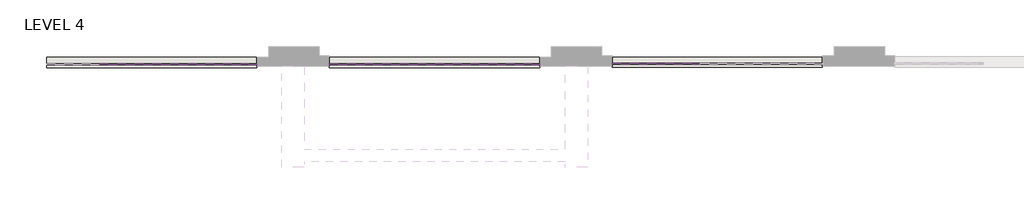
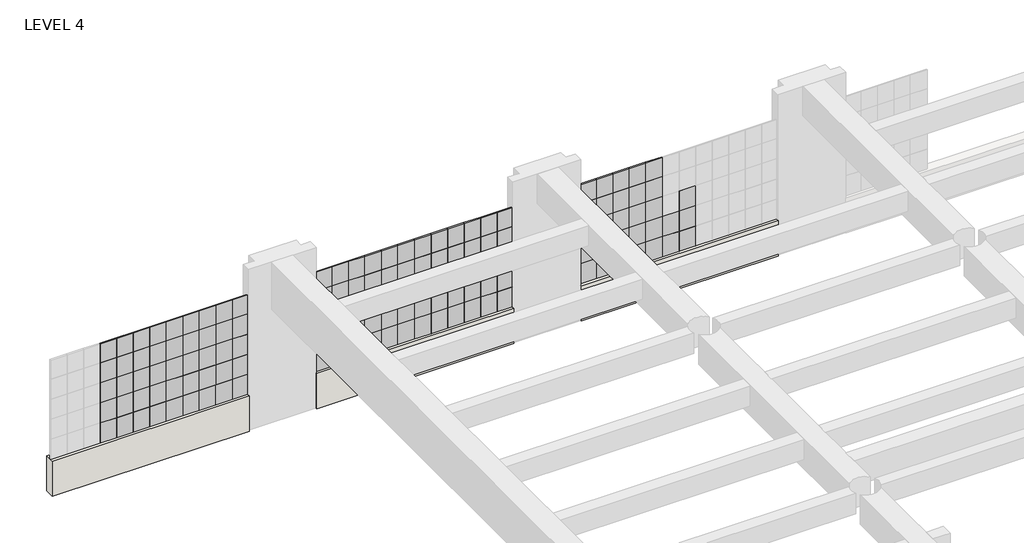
# One storey, part 10 of 26: 135 plates, 3 walls.
"""IFC4 building model written with IfcOpenShell, lengths in millimetres."""

from ifc_helpers import new_model, si_unit, origin, origin_with_axes, place, context, project, spatial, polyline, outline, extrude, transform, mapped, element, save
from components import system_panel_glazed_ab35d819, system_panel_glazed_418eb6cd, system_panel_glazed_c366ada3, system_panel_glazed_5fbbf350

model = new_model("IFC4")

# Units and contexts
model_context = context("Model", 3, world=origin())
ifc_project = project(units=[si_unit("LENGTHUNIT", "METRE", prefix="MILLI")], contexts=[model_context])

# Site, building, storey
site = spatial("IfcSite", under=ifc_project)
building = spatial("IfcBuilding", under=site)
storey = spatial("IfcBuildingStorey", under=building, Name="LEVEL 4", Elevation=0.0)

# Plates
placement = place(None, origin())
system_panel_glazed_shape = system_panel_glazed_ab35d819(model_context)
element("IfcPlate", 1, ObjectType="System Panel : Glazed", at=placement, inside=storey, context=model_context, shape_type="MappedRepresentation", body=[
    mapped(system_panel_glazed_shape, transform((-36423.5794116, 117218.5604847, 800.1), x_axis=(1.0, 0.0, 0.0), y_axis=(0.0, 1.0, 0.0), z_axis=(0.0, 0.0, 1.0))),
])
element("IfcPlate", 2, ObjectType="System Panel : Glazed", at=placement, inside=storey, context=model_context, shape_type="MappedRepresentation", body=[
    mapped(system_panel_glazed_shape, transform((-34289.9794115, 117218.5604847, 800.1), x_axis=(1.0, 0.0, 0.0), y_axis=(0.0, 1.0, 0.0), z_axis=(0.0, 0.0, 1.0))),
])
element("IfcPlate", 3, ObjectType="System Panel : Glazed", at=placement, inside=storey, context=model_context, shape_type="MappedRepresentation", body=[
    mapped(system_panel_glazed_shape, transform((-34645.5794115, 117218.5604847, 800.1), x_axis=(1.0, 0.0, 0.0), y_axis=(0.0, 1.0, 0.0), z_axis=(0.0, 0.0, 1.0))),
])
element("IfcPlate", 4, ObjectType="System Panel : Glazed", at=placement, inside=storey, context=model_context, shape_type="MappedRepresentation", body=[
    mapped(system_panel_glazed_shape, transform((-35001.1794115, 117218.5604847, 800.1), x_axis=(1.0, 0.0, 0.0), y_axis=(0.0, 1.0, 0.0), z_axis=(0.0, 0.0, 1.0))),
])
element("IfcPlate", 5, ObjectType="System Panel : Glazed", at=placement, inside=storey, context=model_context, shape_type="MappedRepresentation", body=[
    mapped(system_panel_glazed_shape, transform((-35356.7794115, 117218.5604847, 800.1), x_axis=(1.0, 0.0, 0.0), y_axis=(0.0, 1.0, 0.0), z_axis=(0.0, 0.0, 1.0))),
])
element("IfcPlate", 6, ObjectType="System Panel : Glazed", at=placement, inside=storey, context=model_context, shape_type="MappedRepresentation", body=[
    mapped(system_panel_glazed_shape, transform((-36423.5794116, 117218.5604847, 1257.3), x_axis=(1.0, 0.0, 0.0), y_axis=(0.0, 1.0, 0.0), z_axis=(0.0, 0.0, 1.0))),
])
element("IfcPlate", 7, ObjectType="System Panel : Glazed", at=placement, inside=storey, context=model_context, shape_type="MappedRepresentation", body=[
    mapped(system_panel_glazed_shape, transform((-34289.9794115, 117218.5604847, 1257.3), x_axis=(1.0, 0.0, 0.0), y_axis=(0.0, 1.0, 0.0), z_axis=(0.0, 0.0, 1.0))),
])
element("IfcPlate", 8, ObjectType="System Panel : Glazed", at=placement, inside=storey, context=model_context, shape_type="MappedRepresentation", body=[
    mapped(system_panel_glazed_shape, transform((-34645.5794115, 117218.5604847, 1257.3), x_axis=(1.0, 0.0, 0.0), y_axis=(0.0, 1.0, 0.0), z_axis=(0.0, 0.0, 1.0))),
])
element("IfcPlate", 9, ObjectType="System Panel : Glazed", at=placement, inside=storey, context=model_context, shape_type="MappedRepresentation", body=[
    mapped(system_panel_glazed_shape, transform((-35001.1794115, 117218.5604847, 1257.3), x_axis=(1.0, 0.0, 0.0), y_axis=(0.0, 1.0, 0.0), z_axis=(0.0, 0.0, 1.0))),
])
element("IfcPlate", 10, ObjectType="System Panel : Glazed", at=placement, inside=storey, context=model_context, shape_type="MappedRepresentation", body=[
    mapped(system_panel_glazed_shape, transform((-35356.7794115, 117218.5604847, 1257.3), x_axis=(1.0, 0.0, 0.0), y_axis=(0.0, 1.0, 0.0), z_axis=(0.0, 0.0, 1.0))),
])
element("IfcPlate", 11, ObjectType="System Panel : Glazed", at=placement, inside=storey, context=model_context, shape_type="MappedRepresentation", body=[
    mapped(system_panel_glazed_shape, transform((-36423.5794116, 117218.5604847, 1714.5), x_axis=(1.0, 0.0, 0.0), y_axis=(0.0, 1.0, 0.0), z_axis=(0.0, 0.0, 1.0))),
])
element("IfcPlate", 12, ObjectType="System Panel : Glazed", at=placement, inside=storey, context=model_context, shape_type="MappedRepresentation", body=[
    mapped(system_panel_glazed_shape, transform((-34289.9794115, 117218.5604847, 1714.5), x_axis=(1.0, 0.0, 0.0), y_axis=(0.0, 1.0, 0.0), z_axis=(0.0, 0.0, 1.0))),
])
element("IfcPlate", 13, ObjectType="System Panel : Glazed", at=placement, inside=storey, context=model_context, shape_type="MappedRepresentation", body=[
    mapped(system_panel_glazed_shape, transform((-35001.1794115, 117218.5604847, 1714.5), x_axis=(1.0, 0.0, 0.0), y_axis=(0.0, 1.0, 0.0), z_axis=(0.0, 0.0, 1.0))),
])
element("IfcPlate", 14, ObjectType="System Panel : Glazed", at=placement, inside=storey, context=model_context, shape_type="MappedRepresentation", body=[
    mapped(system_panel_glazed_shape, transform((-35356.7794115, 117218.5604847, 1714.5), x_axis=(1.0, 0.0, 0.0), y_axis=(0.0, 1.0, 0.0), z_axis=(0.0, 0.0, 1.0))),
])
element("IfcPlate", 15, ObjectType="System Panel : Glazed", at=placement, inside=storey, context=model_context, shape_type="MappedRepresentation", body=[
    mapped(system_panel_glazed_shape, transform((-36423.5794116, 117218.5604847, 2171.7), x_axis=(1.0, 0.0, 0.0), y_axis=(0.0, 1.0, 0.0), z_axis=(0.0, 0.0, 1.0))),
])
element("IfcPlate", 16, ObjectType="System Panel : Glazed", at=placement, inside=storey, context=model_context, shape_type="MappedRepresentation", body=[
    mapped(system_panel_glazed_shape, transform((-35001.1794115, 117218.5604847, 2171.7), x_axis=(1.0, 0.0, 0.0), y_axis=(0.0, 1.0, 0.0), z_axis=(0.0, 0.0, 1.0))),
])
element("IfcPlate", 17, ObjectType="System Panel : Glazed", at=placement, inside=storey, context=model_context, shape_type="MappedRepresentation", body=[
    mapped(system_panel_glazed_shape, transform((-35356.7794115, 117218.5604847, 2171.7), x_axis=(1.0, 0.0, 0.0), y_axis=(0.0, 1.0, 0.0), z_axis=(0.0, 0.0, 1.0))),
])
element("IfcPlate", 18, ObjectType="System Panel : Glazed", at=placement, inside=storey, context=model_context, shape_type="MappedRepresentation", body=[
    mapped(system_panel_glazed_shape, transform((-36067.9794115, 117218.5604847, 800.1), x_axis=(1.0, 0.0, 0.0), y_axis=(0.0, 1.0, 0.0), z_axis=(0.0, 0.0, 1.0))),
])
element("IfcPlate", 19, ObjectType="System Panel : Glazed", at=placement, inside=storey, context=model_context, shape_type="MappedRepresentation", body=[
    mapped(system_panel_glazed_shape, transform((-36067.9794115, 117218.5604847, 1257.3), x_axis=(1.0, 0.0, 0.0), y_axis=(0.0, 1.0, 0.0), z_axis=(0.0, 0.0, 1.0))),
])
element("IfcPlate", 20, ObjectType="System Panel : Glazed", at=placement, inside=storey, context=model_context, shape_type="MappedRepresentation", body=[
    mapped(system_panel_glazed_shape, transform((-36067.9794115, 117218.5604847, 1714.5), x_axis=(1.0, 0.0, 0.0), y_axis=(0.0, 1.0, 0.0), z_axis=(0.0, 0.0, 1.0))),
])
element("IfcPlate", 21, ObjectType="System Panel : Glazed", at=placement, inside=storey, context=model_context, shape_type="MappedRepresentation", body=[
    mapped(system_panel_glazed_shape, transform((-36067.9794115, 117218.5604847, 2171.7), x_axis=(1.0, 0.0, 0.0), y_axis=(0.0, 1.0, 0.0), z_axis=(0.0, 0.0, 1.0))),
])
element("IfcPlate", 22, ObjectType="System Panel : Glazed", at=placement, inside=storey, context=model_context, shape_type="MappedRepresentation", body=[
    mapped(system_panel_glazed_shape, transform((-35712.3794115, 117218.5604847, 800.1), x_axis=(1.0, 0.0, 0.0), y_axis=(0.0, 1.0, 0.0), z_axis=(0.0, 0.0, 1.0))),
])
element("IfcPlate", 23, ObjectType="System Panel : Glazed", at=placement, inside=storey, context=model_context, shape_type="MappedRepresentation", body=[
    mapped(system_panel_glazed_shape, transform((-35712.3794115, 117218.5604847, 1257.3), x_axis=(1.0, 0.0, 0.0), y_axis=(0.0, 1.0, 0.0), z_axis=(0.0, 0.0, 1.0))),
])
element("IfcPlate", 24, ObjectType="System Panel : Glazed", at=placement, inside=storey, context=model_context, shape_type="MappedRepresentation", body=[
    mapped(system_panel_glazed_shape, transform((-35712.3794115, 117218.5604847, 1714.5), x_axis=(1.0, 0.0, 0.0), y_axis=(0.0, 1.0, 0.0), z_axis=(0.0, 0.0, 1.0))),
])
element("IfcPlate", 25, ObjectType="System Panel : Glazed", at=placement, inside=storey, context=model_context, shape_type="MappedRepresentation", body=[
    mapped(system_panel_glazed_shape, transform((-35712.3794115, 117218.5604847, 2171.7), x_axis=(1.0, 0.0, 0.0), y_axis=(0.0, 1.0, 0.0), z_axis=(0.0, 0.0, 1.0))),
])
element("IfcPlate", 26, ObjectType="System Panel : Glazed", at=placement, inside=storey, context=model_context, shape_type="MappedRepresentation", body=[
    mapped(system_panel_glazed_shape, transform((-42118.7148439, 117210.7486604, 800.1), x_axis=(1.0, 0.0, 0.0), y_axis=(0.0, 1.0, 0.0), z_axis=(0.0, 0.0, 1.0))),
])
element("IfcPlate", 27, ObjectType="System Panel : Glazed", at=placement, inside=storey, context=model_context, shape_type="MappedRepresentation", body=[
    mapped(system_panel_glazed_shape, transform((-38562.7148438, 117210.7486604, 800.1), x_axis=(1.0, 0.0, 0.0), y_axis=(0.0, 1.0, 0.0), z_axis=(0.0, 0.0, 1.0))),
])
element("IfcPlate", 28, ObjectType="System Panel : Glazed", at=placement, inside=storey, context=model_context, shape_type="MappedRepresentation", body=[
    mapped(system_panel_glazed_shape, transform((-38918.3148438, 117210.7486604, 800.1), x_axis=(1.0, 0.0, 0.0), y_axis=(0.0, 1.0, 0.0), z_axis=(0.0, 0.0, 1.0))),
])
element("IfcPlate", 29, ObjectType="System Panel : Glazed", at=placement, inside=storey, context=model_context, shape_type="MappedRepresentation", body=[
    mapped(system_panel_glazed_shape, transform((-39273.9148438, 117210.7486604, 800.1), x_axis=(1.0, 0.0, 0.0), y_axis=(0.0, 1.0, 0.0), z_axis=(0.0, 0.0, 1.0))),
])
element("IfcPlate", 30, ObjectType="System Panel : Glazed", at=placement, inside=storey, context=model_context, shape_type="MappedRepresentation", body=[
    mapped(system_panel_glazed_shape, transform((-39629.5148438, 117210.7486604, 800.1), x_axis=(1.0, 0.0, 0.0), y_axis=(0.0, 1.0, 0.0), z_axis=(0.0, 0.0, 1.0))),
])
element("IfcPlate", 31, ObjectType="System Panel : Glazed", at=placement, inside=storey, context=model_context, shape_type="MappedRepresentation", body=[
    mapped(system_panel_glazed_shape, transform((-39985.1148438, 117210.7486604, 800.1), x_axis=(1.0, 0.0, 0.0), y_axis=(0.0, 1.0, 0.0), z_axis=(0.0, 0.0, 1.0))),
])
element("IfcPlate", 32, ObjectType="System Panel : Glazed", at=placement, inside=storey, context=model_context, shape_type="MappedRepresentation", body=[
    mapped(system_panel_glazed_shape, transform((-40340.7148438, 117210.7486604, 800.1), x_axis=(1.0, 0.0, 0.0), y_axis=(0.0, 1.0, 0.0), z_axis=(0.0, 0.0, 1.0))),
])
element("IfcPlate", 33, ObjectType="System Panel : Glazed", at=placement, inside=storey, context=model_context, shape_type="MappedRepresentation", body=[
    mapped(system_panel_glazed_shape, transform((-40696.3148438, 117210.7486604, 800.1), x_axis=(1.0, 0.0, 0.0), y_axis=(0.0, 1.0, 0.0), z_axis=(0.0, 0.0, 1.0))),
])
element("IfcPlate", 34, ObjectType="System Panel : Glazed", at=placement, inside=storey, context=model_context, shape_type="MappedRepresentation", body=[
    mapped(system_panel_glazed_shape, transform((-41051.9148438, 117210.7486604, 800.1), x_axis=(1.0, 0.0, 0.0), y_axis=(0.0, 1.0, 0.0), z_axis=(0.0, 0.0, 1.0))),
])
element("IfcPlate", 35, ObjectType="System Panel : Glazed", at=placement, inside=storey, context=model_context, shape_type="MappedRepresentation", body=[
    mapped(system_panel_glazed_shape, transform((-42118.7148439, 117210.7486604, 1257.3), x_axis=(1.0, 0.0, 0.0), y_axis=(0.0, 1.0, 0.0), z_axis=(0.0, 0.0, 1.0))),
])
element("IfcPlate", 36, ObjectType="System Panel : Glazed", at=placement, inside=storey, context=model_context, shape_type="MappedRepresentation", body=[
    mapped(system_panel_glazed_shape, transform((-38918.3148438, 117210.7486604, 1257.3), x_axis=(1.0, 0.0, 0.0), y_axis=(0.0, 1.0, 0.0), z_axis=(0.0, 0.0, 1.0))),
])
element("IfcPlate", 37, ObjectType="System Panel : Glazed", at=placement, inside=storey, context=model_context, shape_type="MappedRepresentation", body=[
    mapped(system_panel_glazed_shape, transform((-39273.9148438, 117210.7486604, 1257.3), x_axis=(1.0, 0.0, 0.0), y_axis=(0.0, 1.0, 0.0), z_axis=(0.0, 0.0, 1.0))),
])
element("IfcPlate", 38, ObjectType="System Panel : Glazed", at=placement, inside=storey, context=model_context, shape_type="MappedRepresentation", body=[
    mapped(system_panel_glazed_shape, transform((-39629.5148438, 117210.7486604, 1257.3), x_axis=(1.0, 0.0, 0.0), y_axis=(0.0, 1.0, 0.0), z_axis=(0.0, 0.0, 1.0))),
])
element("IfcPlate", 39, ObjectType="System Panel : Glazed", at=placement, inside=storey, context=model_context, shape_type="MappedRepresentation", body=[
    mapped(system_panel_glazed_shape, transform((-39985.1148438, 117210.7486604, 1257.3), x_axis=(1.0, 0.0, 0.0), y_axis=(0.0, 1.0, 0.0), z_axis=(0.0, 0.0, 1.0))),
])
element("IfcPlate", 40, ObjectType="System Panel : Glazed", at=placement, inside=storey, context=model_context, shape_type="MappedRepresentation", body=[
    mapped(system_panel_glazed_shape, transform((-40340.7148438, 117210.7486604, 1257.3), x_axis=(1.0, 0.0, 0.0), y_axis=(0.0, 1.0, 0.0), z_axis=(0.0, 0.0, 1.0))),
])
element("IfcPlate", 41, ObjectType="System Panel : Glazed", at=placement, inside=storey, context=model_context, shape_type="MappedRepresentation", body=[
    mapped(system_panel_glazed_shape, transform((-40696.3148438, 117210.7486604, 1257.3), x_axis=(1.0, 0.0, 0.0), y_axis=(0.0, 1.0, 0.0), z_axis=(0.0, 0.0, 1.0))),
])
element("IfcPlate", 42, ObjectType="System Panel : Glazed", at=placement, inside=storey, context=model_context, shape_type="MappedRepresentation", body=[
    mapped(system_panel_glazed_shape, transform((-41051.9148438, 117210.7486604, 1257.3), x_axis=(1.0, 0.0, 0.0), y_axis=(0.0, 1.0, 0.0), z_axis=(0.0, 0.0, 1.0))),
])
element("IfcPlate", 43, ObjectType="System Panel : Glazed", at=placement, inside=storey, context=model_context, shape_type="MappedRepresentation", body=[
    mapped(system_panel_glazed_shape, transform((-38562.7148438, 117210.7486604, 1257.3), x_axis=(1.0, 0.0, 0.0), y_axis=(0.0, 1.0, 0.0), z_axis=(0.0, 0.0, 1.0))),
])
element("IfcPlate", 44, ObjectType="System Panel : Glazed", at=placement, inside=storey, context=model_context, shape_type="MappedRepresentation", body=[
    mapped(system_panel_glazed_shape, transform((-42118.7148439, 117210.7486604, 1714.5), x_axis=(1.0, 0.0, 0.0), y_axis=(0.0, 1.0, 0.0), z_axis=(0.0, 0.0, 1.0))),
])
element("IfcPlate", 45, ObjectType="System Panel : Glazed", at=placement, inside=storey, context=model_context, shape_type="MappedRepresentation", body=[
    mapped(system_panel_glazed_shape, transform((-38918.3148438, 117210.7486604, 1714.5), x_axis=(1.0, 0.0, 0.0), y_axis=(0.0, 1.0, 0.0), z_axis=(0.0, 0.0, 1.0))),
])
element("IfcPlate", 46, ObjectType="System Panel : Glazed", at=placement, inside=storey, context=model_context, shape_type="MappedRepresentation", body=[
    mapped(system_panel_glazed_shape, transform((-39273.9148438, 117210.7486604, 1714.5), x_axis=(1.0, 0.0, 0.0), y_axis=(0.0, 1.0, 0.0), z_axis=(0.0, 0.0, 1.0))),
])
element("IfcPlate", 47, ObjectType="System Panel : Glazed", at=placement, inside=storey, context=model_context, shape_type="MappedRepresentation", body=[
    mapped(system_panel_glazed_shape, transform((-39629.5148438, 117210.7486604, 1714.5), x_axis=(1.0, 0.0, 0.0), y_axis=(0.0, 1.0, 0.0), z_axis=(0.0, 0.0, 1.0))),
])
element("IfcPlate", 48, ObjectType="System Panel : Glazed", at=placement, inside=storey, context=model_context, shape_type="MappedRepresentation", body=[
    mapped(system_panel_glazed_shape, transform((-39985.1148438, 117210.7486604, 1714.5), x_axis=(1.0, 0.0, 0.0), y_axis=(0.0, 1.0, 0.0), z_axis=(0.0, 0.0, 1.0))),
])
element("IfcPlate", 49, ObjectType="System Panel : Glazed", at=placement, inside=storey, context=model_context, shape_type="MappedRepresentation", body=[
    mapped(system_panel_glazed_shape, transform((-40340.7148438, 117210.7486604, 1714.5), x_axis=(1.0, 0.0, 0.0), y_axis=(0.0, 1.0, 0.0), z_axis=(0.0, 0.0, 1.0))),
])
element("IfcPlate", 50, ObjectType="System Panel : Glazed", at=placement, inside=storey, context=model_context, shape_type="MappedRepresentation", body=[
    mapped(system_panel_glazed_shape, transform((-40696.3148438, 117210.7486604, 1714.5), x_axis=(1.0, 0.0, 0.0), y_axis=(0.0, 1.0, 0.0), z_axis=(0.0, 0.0, 1.0))),
])
element("IfcPlate", 51, ObjectType="System Panel : Glazed", at=placement, inside=storey, context=model_context, shape_type="MappedRepresentation", body=[
    mapped(system_panel_glazed_shape, transform((-41051.9148438, 117210.7486604, 1714.5), x_axis=(1.0, 0.0, 0.0), y_axis=(0.0, 1.0, 0.0), z_axis=(0.0, 0.0, 1.0))),
])
element("IfcPlate", 52, ObjectType="System Panel : Glazed", at=placement, inside=storey, context=model_context, shape_type="MappedRepresentation", body=[
    mapped(system_panel_glazed_shape, transform((-38562.7148438, 117210.7486604, 1714.5), x_axis=(1.0, 0.0, 0.0), y_axis=(0.0, 1.0, 0.0), z_axis=(0.0, 0.0, 1.0))),
])
element("IfcPlate", 53, ObjectType="System Panel : Glazed", at=placement, inside=storey, context=model_context, shape_type="MappedRepresentation", body=[
    mapped(system_panel_glazed_shape, transform((-42118.7148439, 117210.7486604, 2171.7), x_axis=(1.0, 0.0, 0.0), y_axis=(0.0, 1.0, 0.0), z_axis=(0.0, 0.0, 1.0))),
])
element("IfcPlate", 54, ObjectType="System Panel : Glazed", at=placement, inside=storey, context=model_context, shape_type="MappedRepresentation", body=[
    mapped(system_panel_glazed_shape, transform((-38918.3148438, 117210.7486604, 2171.7), x_axis=(1.0, 0.0, 0.0), y_axis=(0.0, 1.0, 0.0), z_axis=(0.0, 0.0, 1.0))),
])
element("IfcPlate", 55, ObjectType="System Panel : Glazed", at=placement, inside=storey, context=model_context, shape_type="MappedRepresentation", body=[
    mapped(system_panel_glazed_shape, transform((-39273.9148438, 117210.7486604, 2171.7), x_axis=(1.0, 0.0, 0.0), y_axis=(0.0, 1.0, 0.0), z_axis=(0.0, 0.0, 1.0))),
])
element("IfcPlate", 56, ObjectType="System Panel : Glazed", at=placement, inside=storey, context=model_context, shape_type="MappedRepresentation", body=[
    mapped(system_panel_glazed_shape, transform((-39629.5148438, 117210.7486604, 2171.7), x_axis=(1.0, 0.0, 0.0), y_axis=(0.0, 1.0, 0.0), z_axis=(0.0, 0.0, 1.0))),
])
element("IfcPlate", 57, ObjectType="System Panel : Glazed", at=placement, inside=storey, context=model_context, shape_type="MappedRepresentation", body=[
    mapped(system_panel_glazed_shape, transform((-39985.1148438, 117210.7486604, 2171.7), x_axis=(1.0, 0.0, 0.0), y_axis=(0.0, 1.0, 0.0), z_axis=(0.0, 0.0, 1.0))),
])
element("IfcPlate", 58, ObjectType="System Panel : Glazed", at=placement, inside=storey, context=model_context, shape_type="MappedRepresentation", body=[
    mapped(system_panel_glazed_shape, transform((-40340.7148438, 117210.7486604, 2171.7), x_axis=(1.0, 0.0, 0.0), y_axis=(0.0, 1.0, 0.0), z_axis=(0.0, 0.0, 1.0))),
])
element("IfcPlate", 59, ObjectType="System Panel : Glazed", at=placement, inside=storey, context=model_context, shape_type="MappedRepresentation", body=[
    mapped(system_panel_glazed_shape, transform((-40696.3148438, 117210.7486604, 2171.7), x_axis=(1.0, 0.0, 0.0), y_axis=(0.0, 1.0, 0.0), z_axis=(0.0, 0.0, 1.0))),
])
element("IfcPlate", 60, ObjectType="System Panel : Glazed", at=placement, inside=storey, context=model_context, shape_type="MappedRepresentation", body=[
    mapped(system_panel_glazed_shape, transform((-41051.9148438, 117210.7486604, 2171.7), x_axis=(1.0, 0.0, 0.0), y_axis=(0.0, 1.0, 0.0), z_axis=(0.0, 0.0, 1.0))),
])
element("IfcPlate", 61, ObjectType="System Panel : Glazed", at=placement, inside=storey, context=model_context, shape_type="MappedRepresentation", body=[
    mapped(system_panel_glazed_shape, transform((-38562.7148438, 117210.7486604, 2171.7), x_axis=(1.0, 0.0, 0.0), y_axis=(0.0, 1.0, 0.0), z_axis=(0.0, 0.0, 1.0))),
])
element("IfcPlate", 62, ObjectType="System Panel : Glazed", at=placement, inside=storey, context=model_context, shape_type="MappedRepresentation", body=[
    mapped(system_panel_glazed_shape, transform((-41763.1148438, 117210.7486604, 800.1), x_axis=(1.0, 0.0, 0.0), y_axis=(0.0, 1.0, 0.0), z_axis=(0.0, 0.0, 1.0))),
])
element("IfcPlate", 63, ObjectType="System Panel : Glazed", at=placement, inside=storey, context=model_context, shape_type="MappedRepresentation", body=[
    mapped(system_panel_glazed_shape, transform((-41763.1148438, 117210.7486604, 1257.3), x_axis=(1.0, 0.0, 0.0), y_axis=(0.0, 1.0, 0.0), z_axis=(0.0, 0.0, 1.0))),
])
element("IfcPlate", 64, ObjectType="System Panel : Glazed", at=placement, inside=storey, context=model_context, shape_type="MappedRepresentation", body=[
    mapped(system_panel_glazed_shape, transform((-41763.1148438, 117210.7486604, 1714.5), x_axis=(1.0, 0.0, 0.0), y_axis=(0.0, 1.0, 0.0), z_axis=(0.0, 0.0, 1.0))),
])
element("IfcPlate", 65, ObjectType="System Panel : Glazed", at=placement, inside=storey, context=model_context, shape_type="MappedRepresentation", body=[
    mapped(system_panel_glazed_shape, transform((-41763.1148438, 117210.7486604, 2171.7), x_axis=(1.0, 0.0, 0.0), y_axis=(0.0, 1.0, 0.0), z_axis=(0.0, 0.0, 1.0))),
])
element("IfcPlate", 66, ObjectType="System Panel : Glazed", at=placement, inside=storey, context=model_context, shape_type="MappedRepresentation", body=[
    mapped(system_panel_glazed_shape, transform((-41407.5148438, 117210.7486604, 800.1), x_axis=(1.0, 0.0, 0.0), y_axis=(0.0, 1.0, 0.0), z_axis=(0.0, 0.0, 1.0))),
])
element("IfcPlate", 67, ObjectType="System Panel : Glazed", at=placement, inside=storey, context=model_context, shape_type="MappedRepresentation", body=[
    mapped(system_panel_glazed_shape, transform((-41407.5148438, 117210.7486604, 1257.3), x_axis=(1.0, 0.0, 0.0), y_axis=(0.0, 1.0, 0.0), z_axis=(0.0, 0.0, 1.0))),
])
element("IfcPlate", 68, ObjectType="System Panel : Glazed", at=placement, inside=storey, context=model_context, shape_type="MappedRepresentation", body=[
    mapped(system_panel_glazed_shape, transform((-41407.5148438, 117210.7486604, 1714.5), x_axis=(1.0, 0.0, 0.0), y_axis=(0.0, 1.0, 0.0), z_axis=(0.0, 0.0, 1.0))),
])
element("IfcPlate", 69, ObjectType="System Panel : Glazed", at=placement, inside=storey, context=model_context, shape_type="MappedRepresentation", body=[
    mapped(system_panel_glazed_shape, transform((-41407.5148438, 117210.7486604, 2171.7), x_axis=(1.0, 0.0, 0.0), y_axis=(0.0, 1.0, 0.0), z_axis=(0.0, 0.0, 1.0))),
])
element("IfcPlate", 70, ObjectType="System Panel : Glazed", at=placement, inside=storey, context=model_context, shape_type="MappedRepresentation", body=[
    mapped(system_panel_glazed_shape, transform((-44257.850276, 117210.7486604, 800.1), x_axis=(1.0, 0.0, 0.0), y_axis=(0.0, 1.0, 0.0), z_axis=(0.0, 0.0, 1.0))),
])
element("IfcPlate", 71, ObjectType="System Panel : Glazed", at=placement, inside=storey, context=model_context, shape_type="MappedRepresentation", body=[
    mapped(system_panel_glazed_shape, transform((-44613.450276, 117210.7486604, 800.1), x_axis=(1.0, 0.0, 0.0), y_axis=(0.0, 1.0, 0.0), z_axis=(0.0, 0.0, 1.0))),
])
element("IfcPlate", 72, ObjectType="System Panel : Glazed", at=placement, inside=storey, context=model_context, shape_type="MappedRepresentation", body=[
    mapped(system_panel_glazed_shape, transform((-44969.050276, 117210.7486604, 800.1), x_axis=(1.0, 0.0, 0.0), y_axis=(0.0, 1.0, 0.0), z_axis=(0.0, 0.0, 1.0))),
])
element("IfcPlate", 73, ObjectType="System Panel : Glazed", at=placement, inside=storey, context=model_context, shape_type="MappedRepresentation", body=[
    mapped(system_panel_glazed_shape, transform((-45324.650276, 117210.7486604, 800.1), x_axis=(1.0, 0.0, 0.0), y_axis=(0.0, 1.0, 0.0), z_axis=(0.0, 0.0, 1.0))),
])
element("IfcPlate", 74, ObjectType="System Panel : Glazed", at=placement, inside=storey, context=model_context, shape_type="MappedRepresentation", body=[
    mapped(system_panel_glazed_shape, transform((-45680.250276, 117210.7486604, 800.1), x_axis=(1.0, 0.0, 0.0), y_axis=(0.0, 1.0, 0.0), z_axis=(0.0, 0.0, 1.0))),
])
element("IfcPlate", 75, ObjectType="System Panel : Glazed", at=placement, inside=storey, context=model_context, shape_type="MappedRepresentation", body=[
    mapped(system_panel_glazed_shape, transform((-46035.850276, 117210.7486604, 800.1), x_axis=(1.0, 0.0, 0.0), y_axis=(0.0, 1.0, 0.0), z_axis=(0.0, 0.0, 1.0))),
])
element("IfcPlate", 76, ObjectType="System Panel : Glazed", at=placement, inside=storey, context=model_context, shape_type="MappedRepresentation", body=[
    mapped(system_panel_glazed_shape, transform((-46391.450276, 117210.7486604, 800.1), x_axis=(1.0, 0.0, 0.0), y_axis=(0.0, 1.0, 0.0), z_axis=(0.0, 0.0, 1.0))),
])
element("IfcPlate", 77, ObjectType="System Panel : Glazed", at=placement, inside=storey, context=model_context, shape_type="MappedRepresentation", body=[
    mapped(system_panel_glazed_shape, transform((-46747.050276, 117210.7486604, 800.1), x_axis=(1.0, 0.0, 0.0), y_axis=(0.0, 1.0, 0.0), z_axis=(0.0, 0.0, 1.0))),
])
element("IfcPlate", 78, ObjectType="System Panel : Glazed", at=placement, inside=storey, context=model_context, shape_type="MappedRepresentation", body=[
    mapped(system_panel_glazed_shape, transform((-44613.450276, 117210.7486604, 1257.3), x_axis=(1.0, 0.0, 0.0), y_axis=(0.0, 1.0, 0.0), z_axis=(0.0, 0.0, 1.0))),
])
element("IfcPlate", 79, ObjectType="System Panel : Glazed", at=placement, inside=storey, context=model_context, shape_type="MappedRepresentation", body=[
    mapped(system_panel_glazed_shape, transform((-44969.050276, 117210.7486604, 1257.3), x_axis=(1.0, 0.0, 0.0), y_axis=(0.0, 1.0, 0.0), z_axis=(0.0, 0.0, 1.0))),
])
element("IfcPlate", 80, ObjectType="System Panel : Glazed", at=placement, inside=storey, context=model_context, shape_type="MappedRepresentation", body=[
    mapped(system_panel_glazed_shape, transform((-45324.650276, 117210.7486604, 1257.3), x_axis=(1.0, 0.0, 0.0), y_axis=(0.0, 1.0, 0.0), z_axis=(0.0, 0.0, 1.0))),
])
element("IfcPlate", 81, ObjectType="System Panel : Glazed", at=placement, inside=storey, context=model_context, shape_type="MappedRepresentation", body=[
    mapped(system_panel_glazed_shape, transform((-45680.250276, 117210.7486604, 1257.3), x_axis=(1.0, 0.0, 0.0), y_axis=(0.0, 1.0, 0.0), z_axis=(0.0, 0.0, 1.0))),
])
element("IfcPlate", 82, ObjectType="System Panel : Glazed", at=placement, inside=storey, context=model_context, shape_type="MappedRepresentation", body=[
    mapped(system_panel_glazed_shape, transform((-46035.850276, 117210.7486604, 1257.3), x_axis=(1.0, 0.0, 0.0), y_axis=(0.0, 1.0, 0.0), z_axis=(0.0, 0.0, 1.0))),
])
element("IfcPlate", 83, ObjectType="System Panel : Glazed", at=placement, inside=storey, context=model_context, shape_type="MappedRepresentation", body=[
    mapped(system_panel_glazed_shape, transform((-46391.450276, 117210.7486604, 1257.3), x_axis=(1.0, 0.0, 0.0), y_axis=(0.0, 1.0, 0.0), z_axis=(0.0, 0.0, 1.0))),
])
element("IfcPlate", 84, ObjectType="System Panel : Glazed", at=placement, inside=storey, context=model_context, shape_type="MappedRepresentation", body=[
    mapped(system_panel_glazed_shape, transform((-46747.050276, 117210.7486604, 1257.3), x_axis=(1.0, 0.0, 0.0), y_axis=(0.0, 1.0, 0.0), z_axis=(0.0, 0.0, 1.0))),
])
element("IfcPlate", 85, ObjectType="System Panel : Glazed", at=placement, inside=storey, context=model_context, shape_type="MappedRepresentation", body=[
    mapped(system_panel_glazed_shape, transform((-44257.850276, 117210.7486604, 1257.3), x_axis=(1.0, 0.0, 0.0), y_axis=(0.0, 1.0, 0.0), z_axis=(0.0, 0.0, 1.0))),
])
element("IfcPlate", 86, ObjectType="System Panel : Glazed", at=placement, inside=storey, context=model_context, shape_type="MappedRepresentation", body=[
    mapped(system_panel_glazed_shape, transform((-44613.450276, 117210.7486604, 1714.5), x_axis=(1.0, 0.0, 0.0), y_axis=(0.0, 1.0, 0.0), z_axis=(0.0, 0.0, 1.0))),
])
element("IfcPlate", 87, ObjectType="System Panel : Glazed", at=placement, inside=storey, context=model_context, shape_type="MappedRepresentation", body=[
    mapped(system_panel_glazed_shape, transform((-44969.050276, 117210.7486604, 1714.5), x_axis=(1.0, 0.0, 0.0), y_axis=(0.0, 1.0, 0.0), z_axis=(0.0, 0.0, 1.0))),
])
element("IfcPlate", 88, ObjectType="System Panel : Glazed", at=placement, inside=storey, context=model_context, shape_type="MappedRepresentation", body=[
    mapped(system_panel_glazed_shape, transform((-45324.650276, 117210.7486604, 1714.5), x_axis=(1.0, 0.0, 0.0), y_axis=(0.0, 1.0, 0.0), z_axis=(0.0, 0.0, 1.0))),
])
element("IfcPlate", 89, ObjectType="System Panel : Glazed", at=placement, inside=storey, context=model_context, shape_type="MappedRepresentation", body=[
    mapped(system_panel_glazed_shape, transform((-45680.250276, 117210.7486604, 1714.5), x_axis=(1.0, 0.0, 0.0), y_axis=(0.0, 1.0, 0.0), z_axis=(0.0, 0.0, 1.0))),
])
element("IfcPlate", 90, ObjectType="System Panel : Glazed", at=placement, inside=storey, context=model_context, shape_type="MappedRepresentation", body=[
    mapped(system_panel_glazed_shape, transform((-46035.850276, 117210.7486604, 1714.5), x_axis=(1.0, 0.0, 0.0), y_axis=(0.0, 1.0, 0.0), z_axis=(0.0, 0.0, 1.0))),
])
element("IfcPlate", 91, ObjectType="System Panel : Glazed", at=placement, inside=storey, context=model_context, shape_type="MappedRepresentation", body=[
    mapped(system_panel_glazed_shape, transform((-46391.450276, 117210.7486604, 1714.5), x_axis=(1.0, 0.0, 0.0), y_axis=(0.0, 1.0, 0.0), z_axis=(0.0, 0.0, 1.0))),
])
element("IfcPlate", 92, ObjectType="System Panel : Glazed", at=placement, inside=storey, context=model_context, shape_type="MappedRepresentation", body=[
    mapped(system_panel_glazed_shape, transform((-46747.050276, 117210.7486604, 1714.5), x_axis=(1.0, 0.0, 0.0), y_axis=(0.0, 1.0, 0.0), z_axis=(0.0, 0.0, 1.0))),
])
element("IfcPlate", 93, ObjectType="System Panel : Glazed", at=placement, inside=storey, context=model_context, shape_type="MappedRepresentation", body=[
    mapped(system_panel_glazed_shape, transform((-44257.850276, 117210.7486604, 1714.5), x_axis=(1.0, 0.0, 0.0), y_axis=(0.0, 1.0, 0.0), z_axis=(0.0, 0.0, 1.0))),
])
element("IfcPlate", 94, ObjectType="System Panel : Glazed", at=placement, inside=storey, context=model_context, shape_type="MappedRepresentation", body=[
    mapped(system_panel_glazed_shape, transform((-44613.450276, 117210.7486604, 2171.7), x_axis=(1.0, 0.0, 0.0), y_axis=(0.0, 1.0, 0.0), z_axis=(0.0, 0.0, 1.0))),
])
element("IfcPlate", 95, ObjectType="System Panel : Glazed", at=placement, inside=storey, context=model_context, shape_type="MappedRepresentation", body=[
    mapped(system_panel_glazed_shape, transform((-44969.050276, 117210.7486604, 2171.7), x_axis=(1.0, 0.0, 0.0), y_axis=(0.0, 1.0, 0.0), z_axis=(0.0, 0.0, 1.0))),
])
element("IfcPlate", 96, ObjectType="System Panel : Glazed", at=placement, inside=storey, context=model_context, shape_type="MappedRepresentation", body=[
    mapped(system_panel_glazed_shape, transform((-45324.650276, 117210.7486604, 2171.7), x_axis=(1.0, 0.0, 0.0), y_axis=(0.0, 1.0, 0.0), z_axis=(0.0, 0.0, 1.0))),
])
element("IfcPlate", 97, ObjectType="System Panel : Glazed", at=placement, inside=storey, context=model_context, shape_type="MappedRepresentation", body=[
    mapped(system_panel_glazed_shape, transform((-45680.250276, 117210.7486604, 2171.7), x_axis=(1.0, 0.0, 0.0), y_axis=(0.0, 1.0, 0.0), z_axis=(0.0, 0.0, 1.0))),
])
element("IfcPlate", 98, ObjectType="System Panel : Glazed", at=placement, inside=storey, context=model_context, shape_type="MappedRepresentation", body=[
    mapped(system_panel_glazed_shape, transform((-46035.850276, 117210.7486604, 2171.7), x_axis=(1.0, 0.0, 0.0), y_axis=(0.0, 1.0, 0.0), z_axis=(0.0, 0.0, 1.0))),
])
element("IfcPlate", 99, ObjectType="System Panel : Glazed", at=placement, inside=storey, context=model_context, shape_type="MappedRepresentation", body=[
    mapped(system_panel_glazed_shape, transform((-46391.450276, 117210.7486604, 2171.7), x_axis=(1.0, 0.0, 0.0), y_axis=(0.0, 1.0, 0.0), z_axis=(0.0, 0.0, 1.0))),
])
element("IfcPlate", 100, ObjectType="System Panel : Glazed", at=placement, inside=storey, context=model_context, shape_type="MappedRepresentation", body=[
    mapped(system_panel_glazed_shape, transform((-46747.050276, 117210.7486604, 2171.7), x_axis=(1.0, 0.0, 0.0), y_axis=(0.0, 1.0, 0.0), z_axis=(0.0, 0.0, 1.0))),
])
element("IfcPlate", 101, ObjectType="System Panel : Glazed", at=placement, inside=storey, context=model_context, shape_type="MappedRepresentation", body=[
    mapped(system_panel_glazed_shape, transform((-44257.850276, 117210.7486604, 2171.7), x_axis=(1.0, 0.0, 0.0), y_axis=(0.0, 1.0, 0.0), z_axis=(0.0, 0.0, 1.0))),
])
system_panel_glazed_2_shape = system_panel_glazed_418eb6cd(model_context)
element("IfcPlate", 102, ObjectType="System Panel : Glazed", at=placement, inside=storey, context=model_context, shape_type="MappedRepresentation", body=[
    mapped(system_panel_glazed_2_shape, transform((-36423.5794116, 117218.5604847, 2628.9), x_axis=(1.0, 0.0, 0.0), y_axis=(0.0, 1.0, 0.0), z_axis=(0.0, 0.0, 1.0))),
])
element("IfcPlate", 103, ObjectType="System Panel : Glazed", at=placement, inside=storey, context=model_context, shape_type="MappedRepresentation", body=[
    mapped(system_panel_glazed_2_shape, transform((-35001.1794115, 117218.5604847, 2628.9), x_axis=(1.0, 0.0, 0.0), y_axis=(0.0, 1.0, 0.0), z_axis=(0.0, 0.0, 1.0))),
])
element("IfcPlate", 104, ObjectType="System Panel : Glazed", at=placement, inside=storey, context=model_context, shape_type="MappedRepresentation", body=[
    mapped(system_panel_glazed_2_shape, transform((-35356.7794115, 117218.5604847, 2628.9), x_axis=(1.0, 0.0, 0.0), y_axis=(0.0, 1.0, 0.0), z_axis=(0.0, 0.0, 1.0))),
])
element("IfcPlate", 105, ObjectType="System Panel : Glazed", at=placement, inside=storey, context=model_context, shape_type="MappedRepresentation", body=[
    mapped(system_panel_glazed_2_shape, transform((-36067.9794115, 117218.5604847, 2628.9), x_axis=(1.0, 0.0, 0.0), y_axis=(0.0, 1.0, 0.0), z_axis=(0.0, 0.0, 1.0))),
])
element("IfcPlate", 106, ObjectType="System Panel : Glazed", at=placement, inside=storey, context=model_context, shape_type="MappedRepresentation", body=[
    mapped(system_panel_glazed_2_shape, transform((-35712.3794115, 117218.5604847, 2628.9), x_axis=(1.0, 0.0, 0.0), y_axis=(0.0, 1.0, 0.0), z_axis=(0.0, 0.0, 1.0))),
])
element("IfcPlate", 107, ObjectType="System Panel : Glazed", at=placement, inside=storey, context=model_context, shape_type="MappedRepresentation", body=[
    mapped(system_panel_glazed_2_shape, transform((-42118.7148439, 117210.7486604, 2628.9), x_axis=(1.0, 0.0, 0.0), y_axis=(0.0, 1.0, 0.0), z_axis=(0.0, 0.0, 1.0))),
])
element("IfcPlate", 108, ObjectType="System Panel : Glazed", at=placement, inside=storey, context=model_context, shape_type="MappedRepresentation", body=[
    mapped(system_panel_glazed_2_shape, transform((-38918.3148438, 117210.7486604, 2628.9), x_axis=(1.0, 0.0, 0.0), y_axis=(0.0, 1.0, 0.0), z_axis=(0.0, 0.0, 1.0))),
])
element("IfcPlate", 109, ObjectType="System Panel : Glazed", at=placement, inside=storey, context=model_context, shape_type="MappedRepresentation", body=[
    mapped(system_panel_glazed_2_shape, transform((-39273.9148438, 117210.7486604, 2628.9), x_axis=(1.0, 0.0, 0.0), y_axis=(0.0, 1.0, 0.0), z_axis=(0.0, 0.0, 1.0))),
])
element("IfcPlate", 110, ObjectType="System Panel : Glazed", at=placement, inside=storey, context=model_context, shape_type="MappedRepresentation", body=[
    mapped(system_panel_glazed_2_shape, transform((-39629.5148438, 117210.7486604, 2628.9), x_axis=(1.0, 0.0, 0.0), y_axis=(0.0, 1.0, 0.0), z_axis=(0.0, 0.0, 1.0))),
])
element("IfcPlate", 111, ObjectType="System Panel : Glazed", at=placement, inside=storey, context=model_context, shape_type="MappedRepresentation", body=[
    mapped(system_panel_glazed_2_shape, transform((-39985.1148438, 117210.7486604, 2628.9), x_axis=(1.0, 0.0, 0.0), y_axis=(0.0, 1.0, 0.0), z_axis=(0.0, 0.0, 1.0))),
])
element("IfcPlate", 112, ObjectType="System Panel : Glazed", at=placement, inside=storey, context=model_context, shape_type="MappedRepresentation", body=[
    mapped(system_panel_glazed_2_shape, transform((-40340.7148438, 117210.7486604, 2628.9), x_axis=(1.0, 0.0, 0.0), y_axis=(0.0, 1.0, 0.0), z_axis=(0.0, 0.0, 1.0))),
])
element("IfcPlate", 113, ObjectType="System Panel : Glazed", at=placement, inside=storey, context=model_context, shape_type="MappedRepresentation", body=[
    mapped(system_panel_glazed_2_shape, transform((-40696.3148438, 117210.7486604, 2628.9), x_axis=(1.0, 0.0, 0.0), y_axis=(0.0, 1.0, 0.0), z_axis=(0.0, 0.0, 1.0))),
])
element("IfcPlate", 114, ObjectType="System Panel : Glazed", at=placement, inside=storey, context=model_context, shape_type="MappedRepresentation", body=[
    mapped(system_panel_glazed_2_shape, transform((-41051.9148438, 117210.7486604, 2628.9), x_axis=(1.0, 0.0, 0.0), y_axis=(0.0, 1.0, 0.0), z_axis=(0.0, 0.0, 1.0))),
])
element("IfcPlate", 115, ObjectType="System Panel : Glazed", at=placement, inside=storey, context=model_context, shape_type="MappedRepresentation", body=[
    mapped(system_panel_glazed_2_shape, transform((-38562.7148438, 117210.7486604, 2628.9), x_axis=(1.0, 0.0, 0.0), y_axis=(0.0, 1.0, 0.0), z_axis=(0.0, 0.0, 1.0))),
])
element("IfcPlate", 116, ObjectType="System Panel : Glazed", at=placement, inside=storey, context=model_context, shape_type="MappedRepresentation", body=[
    mapped(system_panel_glazed_2_shape, transform((-41763.1148438, 117210.7486604, 2628.9), x_axis=(1.0, 0.0, 0.0), y_axis=(0.0, 1.0, 0.0), z_axis=(0.0, 0.0, 1.0))),
])
element("IfcPlate", 117, ObjectType="System Panel : Glazed", at=placement, inside=storey, context=model_context, shape_type="MappedRepresentation", body=[
    mapped(system_panel_glazed_2_shape, transform((-41407.5148438, 117210.7486604, 2628.9), x_axis=(1.0, 0.0, 0.0), y_axis=(0.0, 1.0, 0.0), z_axis=(0.0, 0.0, 1.0))),
])
element("IfcPlate", 118, ObjectType="System Panel : Glazed", at=placement, inside=storey, context=model_context, shape_type="MappedRepresentation", body=[
    mapped(system_panel_glazed_2_shape, transform((-44613.450276, 117210.7486604, 2628.9), x_axis=(1.0, 0.0, 0.0), y_axis=(0.0, 1.0, 0.0), z_axis=(0.0, 0.0, 1.0))),
])
element("IfcPlate", 119, ObjectType="System Panel : Glazed", at=placement, inside=storey, context=model_context, shape_type="MappedRepresentation", body=[
    mapped(system_panel_glazed_2_shape, transform((-44969.050276, 117210.7486604, 2628.9), x_axis=(1.0, 0.0, 0.0), y_axis=(0.0, 1.0, 0.0), z_axis=(0.0, 0.0, 1.0))),
])
element("IfcPlate", 120, ObjectType="System Panel : Glazed", at=placement, inside=storey, context=model_context, shape_type="MappedRepresentation", body=[
    mapped(system_panel_glazed_2_shape, transform((-45324.650276, 117210.7486604, 2628.9), x_axis=(1.0, 0.0, 0.0), y_axis=(0.0, 1.0, 0.0), z_axis=(0.0, 0.0, 1.0))),
])
element("IfcPlate", 121, ObjectType="System Panel : Glazed", at=placement, inside=storey, context=model_context, shape_type="MappedRepresentation", body=[
    mapped(system_panel_glazed_2_shape, transform((-45680.250276, 117210.7486604, 2628.9), x_axis=(1.0, 0.0, 0.0), y_axis=(0.0, 1.0, 0.0), z_axis=(0.0, 0.0, 1.0))),
])
element("IfcPlate", 122, ObjectType="System Panel : Glazed", at=placement, inside=storey, context=model_context, shape_type="MappedRepresentation", body=[
    mapped(system_panel_glazed_2_shape, transform((-46035.850276, 117210.7486604, 2628.9), x_axis=(1.0, 0.0, 0.0), y_axis=(0.0, 1.0, 0.0), z_axis=(0.0, 0.0, 1.0))),
])
element("IfcPlate", 123, ObjectType="System Panel : Glazed", at=placement, inside=storey, context=model_context, shape_type="MappedRepresentation", body=[
    mapped(system_panel_glazed_2_shape, transform((-46391.450276, 117210.7486604, 2628.9), x_axis=(1.0, 0.0, 0.0), y_axis=(0.0, 1.0, 0.0), z_axis=(0.0, 0.0, 1.0))),
])
element("IfcPlate", 124, ObjectType="System Panel : Glazed", at=placement, inside=storey, context=model_context, shape_type="MappedRepresentation", body=[
    mapped(system_panel_glazed_2_shape, transform((-46747.050276, 117210.7486604, 2628.9), x_axis=(1.0, 0.0, 0.0), y_axis=(0.0, 1.0, 0.0), z_axis=(0.0, 0.0, 1.0))),
])
element("IfcPlate", 125, ObjectType="System Panel : Glazed", at=placement, inside=storey, context=model_context, shape_type="MappedRepresentation", body=[
    mapped(system_panel_glazed_2_shape, transform((-44257.850276, 117210.7486604, 2628.9), x_axis=(1.0, 0.0, 0.0), y_axis=(0.0, 1.0, 0.0), z_axis=(0.0, 0.0, 1.0))),
])
system_panel_glazed_3_shape = system_panel_glazed_c366ada3(model_context)
element("IfcPlate", 126, ObjectType="System Panel : Glazed", at=placement, inside=storey, context=model_context, shape_type="MappedRepresentation", body=[
    mapped(system_panel_glazed_3_shape, transform((-38223.3971278, 117210.7486604, 800.1), x_axis=(1.0, 0.0, 0.0), y_axis=(0.0, 1.0, 0.0), z_axis=(0.0, 0.0, 1.0))),
])
element("IfcPlate", 127, ObjectType="System Panel : Glazed", at=placement, inside=storey, context=model_context, shape_type="MappedRepresentation", body=[
    mapped(system_panel_glazed_3_shape, transform((-38223.3971278, 117210.7486604, 1257.3), x_axis=(1.0, 0.0, 0.0), y_axis=(0.0, 1.0, 0.0), z_axis=(0.0, 0.0, 1.0))),
])
element("IfcPlate", 128, ObjectType="System Panel : Glazed", at=placement, inside=storey, context=model_context, shape_type="MappedRepresentation", body=[
    mapped(system_panel_glazed_3_shape, transform((-38223.3971278, 117210.7486604, 1714.5), x_axis=(1.0, 0.0, 0.0), y_axis=(0.0, 1.0, 0.0), z_axis=(0.0, 0.0, 1.0))),
])
element("IfcPlate", 129, ObjectType="System Panel : Glazed", at=placement, inside=storey, context=model_context, shape_type="MappedRepresentation", body=[
    mapped(system_panel_glazed_3_shape, transform((-38223.3971278, 117210.7486604, 2171.7), x_axis=(1.0, 0.0, 0.0), y_axis=(0.0, 1.0, 0.0), z_axis=(0.0, 0.0, 1.0))),
])
element("IfcPlate", 130, ObjectType="System Panel : Glazed", at=placement, inside=storey, context=model_context, shape_type="MappedRepresentation", body=[
    mapped(system_panel_glazed_3_shape, transform((-43918.53256, 117210.7486604, 800.1), x_axis=(1.0, 0.0, 0.0), y_axis=(0.0, 1.0, 0.0), z_axis=(0.0, 0.0, 1.0))),
])
element("IfcPlate", 131, ObjectType="System Panel : Glazed", at=placement, inside=storey, context=model_context, shape_type="MappedRepresentation", body=[
    mapped(system_panel_glazed_3_shape, transform((-43918.53256, 117210.7486604, 1257.3), x_axis=(1.0, 0.0, 0.0), y_axis=(0.0, 1.0, 0.0), z_axis=(0.0, 0.0, 1.0))),
])
element("IfcPlate", 132, ObjectType="System Panel : Glazed", at=placement, inside=storey, context=model_context, shape_type="MappedRepresentation", body=[
    mapped(system_panel_glazed_3_shape, transform((-43918.53256, 117210.7486604, 1714.5), x_axis=(1.0, 0.0, 0.0), y_axis=(0.0, 1.0, 0.0), z_axis=(0.0, 0.0, 1.0))),
])
element("IfcPlate", 133, ObjectType="System Panel : Glazed", at=placement, inside=storey, context=model_context, shape_type="MappedRepresentation", body=[
    mapped(system_panel_glazed_3_shape, transform((-43918.53256, 117210.7486604, 2171.7), x_axis=(1.0, 0.0, 0.0), y_axis=(0.0, 1.0, 0.0), z_axis=(0.0, 0.0, 1.0))),
])
system_panel_glazed_4_shape = system_panel_glazed_5fbbf350(model_context)
element("IfcPlate", 134, ObjectType="System Panel : Glazed", at=placement, inside=storey, context=model_context, shape_type="MappedRepresentation", body=[
    mapped(system_panel_glazed_4_shape, transform((-38223.3971278, 117210.7486604, 2628.9), x_axis=(1.0, 0.0, 0.0), y_axis=(0.0, 1.0, 0.0), z_axis=(0.0, 0.0, 1.0))),
])
element("IfcPlate", 135, ObjectType="System Panel : Glazed", at=placement, inside=storey, context=model_context, shape_type="MappedRepresentation", body=[
    mapped(system_panel_glazed_4_shape, transform((-43918.53256, 117210.7486604, 2628.9), x_axis=(1.0, 0.0, 0.0), y_axis=(0.0, 1.0, 0.0), z_axis=(0.0, 0.0, 1.0))),
])

# Walls
element("IfcWall", 136, ObjectType="_Generic - 8 1/4\"", at=placement, inside=storey, context=model_context, shape_type="SweptSolid", body=[
    extrude(outline(polyline([(-32366.7439795, 117113.7854847), (-36601.3794118, 117113.7854847), (-36601.3794118, 117323.3354847), (-32366.7439795, 117323.3354847), (-32366.7439795, 117113.7854847)])), origin_with_axes(), (0.0, 0.0, 1.0), 800.1),
])
element("IfcWall", 137, ObjectType="_Generic - 8 1/4\"", at=placement, inside=storey, context=model_context, shape_type="SweptSolid", body=[
    extrude(outline(polyline([(-38061.8794118, 117105.9736604), (-42296.5148441, 117105.9736604), (-42296.5148441, 117315.5236604), (-38061.8794118, 117315.5236604), (-38061.8794118, 117105.9736604)])), origin_with_axes(), (0.0, 0.0, 1.0), 800.1),
])
element("IfcWall", 138, ObjectType="_Generic - 8 1/4\"", at=placement, inside=storey, context=model_context, shape_type="SweptSolid", body=[
    extrude(outline(polyline([(-43757.0148441, 117105.9736604), (-47991.6502763, 117105.9736604), (-47991.6502763, 117315.5236604), (-43757.0148441, 117315.5236604), (-43757.0148441, 117105.9736604)])), origin_with_axes(), (0.0, 0.0, 1.0), 800.1),
])

save(model, "model.ifc")
